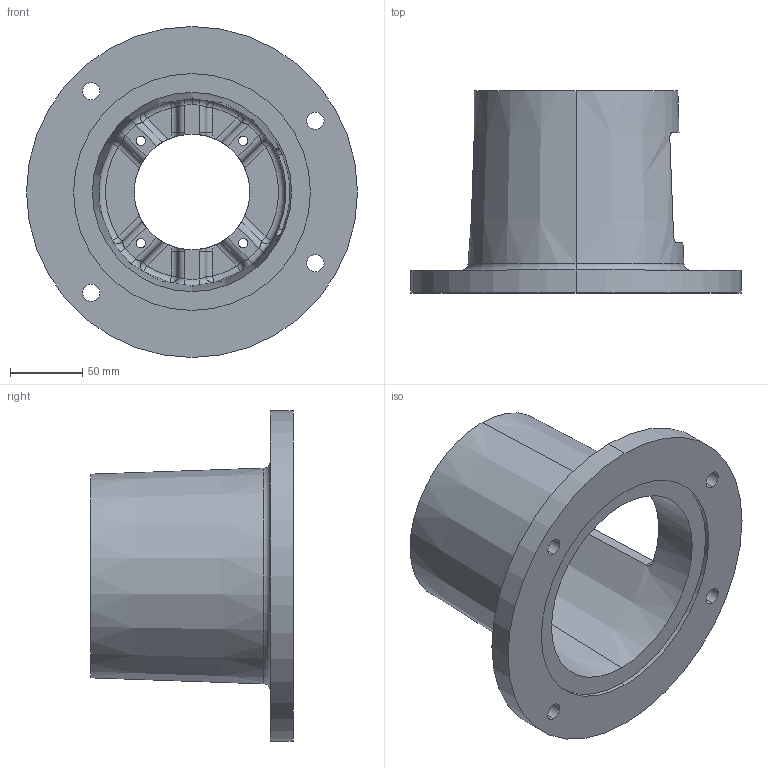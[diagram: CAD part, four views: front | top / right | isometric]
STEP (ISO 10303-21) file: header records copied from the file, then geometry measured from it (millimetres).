
FILE_DESCRIPTION (( 'STEP AP203' ), '1' );
FILE_NAME ('E7005580MS.STEP', '2014-11-04T13:06:06', ( '' ), ( '' ), 'SwSTEP 2.0', 'SolidWorks 2014', '' );
FILE_SCHEMA (( 'CONFIG_CONTROL_DESIGN' ));
Length unit declared in the file: inch
Products named in the file (1): E7005580MS
Bounding box: 228.6 x 139.7 x 228.6 mm (x, y, z)
Volume: 788885 mm3; surface area: 189407.1 mm2
Topology: 1 solids, 1 shells, 149 faces, 376 edges, 219 vertices
Faces by surface type: cylinder 54, plane 32, bspline 24, torus 23, sphere 12, cone 4
Entity records: 6385 total; most frequent: CARTESIAN_POINT 2891, ORIENTED_EDGE 728, DIRECTION 714, EDGE_CURVE 364, AXIS2_PLACEMENT_3D 308, VERTEX_POINT 219, CIRCLE 182, EDGE_LOOP 171
